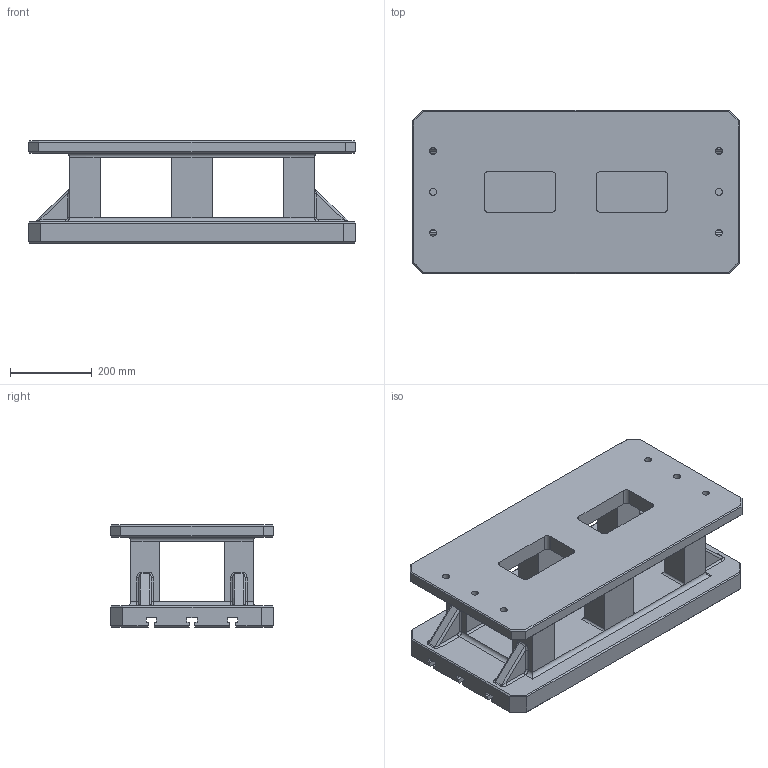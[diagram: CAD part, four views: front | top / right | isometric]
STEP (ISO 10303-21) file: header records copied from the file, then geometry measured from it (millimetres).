
FILE_DESCRIPTION((''),'2;1');
FILE_NAME('FG_WH_RISTL_TSLOTNP004','2026-05-24T11:39:25',('Admin'),(''),'CREO PARAMETRIC BY PTC INC, 2025010','CREO PARAMETRIC BY PTC INC, 2025010','');
FILE_SCHEMA(('CONFIG_CONTROL_DESIGN'));
Length unit declared in the file: millimetre
Products named in the file (1): FG_WH_RISTL_TSLOTNP004
Bounding box: 800 x 400 x 250 mm (x, y, z)
Volume: 32815720.3 mm3; surface area: 1828028.5 mm2
Topology: 1 solids, 1 shells, 262 faces, 658 edges, 396 vertices
Faces by surface type: plane 134, cylinder 104, bspline 24
Entity records: 8852 total; most frequent: CARTESIAN_POINT 2636, ORIENTED_EDGE 1316, DIRECTION 1230, EDGE_CURVE 658, VECTOR 450, LINE 450, VERTEX_POINT 396, AXIS2_PLACEMENT_3D 390
